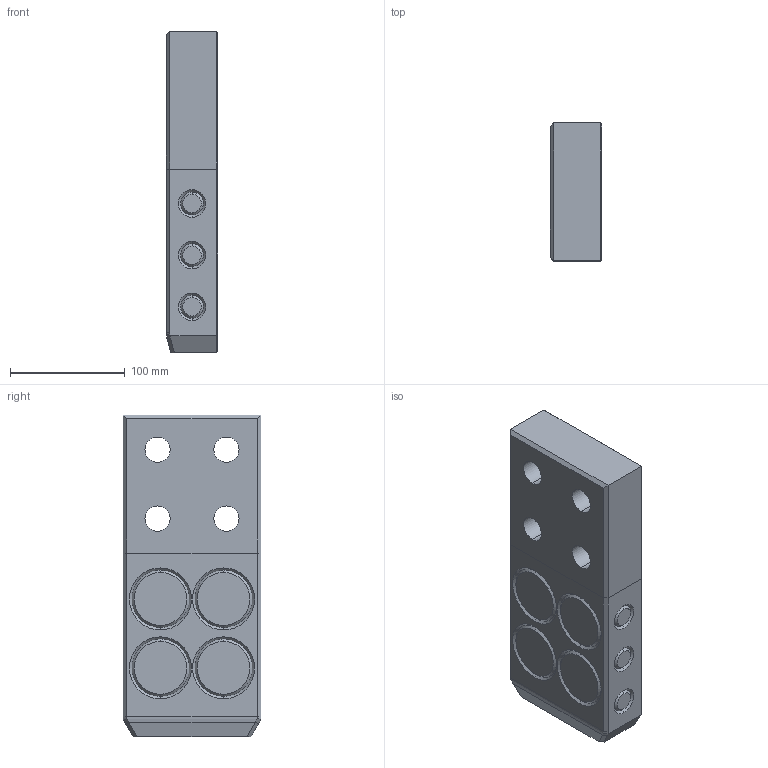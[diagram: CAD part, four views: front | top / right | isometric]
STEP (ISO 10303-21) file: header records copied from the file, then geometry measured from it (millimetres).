
FILE_DESCRIPTION((''),'2;1');
FILE_NAME('','2010-08-30T19:11:18+09:00',('misumi'),(''),'M/STEP i/f 1R2-14','CADmeister v5.1','');
FILE_SCHEMA(('AUTOMOTIVE_DESIGN'));
Length unit declared in the file: millimetre
Products named in the file (1): OGZ120-280
Bounding box: 45 x 120 x 280 mm (x, y, z)
Volume: 1386261.3 mm3; surface area: 115220.8 mm2
Topology: 1 solids, 1 shells, 103 faces, 222 edges, 136 vertices
Faces by surface type: plane 40, cone 40, cylinder 19, bspline 4
Entity records: 3770 total; most frequent: CARTESIAN_POINT 1422, DIRECTION 480, ORIENTED_EDGE 444, EDGE_CURVE 222, AXIS2_PLACEMENT_3D 184, VERTEX_POINT 136, EDGE_LOOP 126, LINE 112
